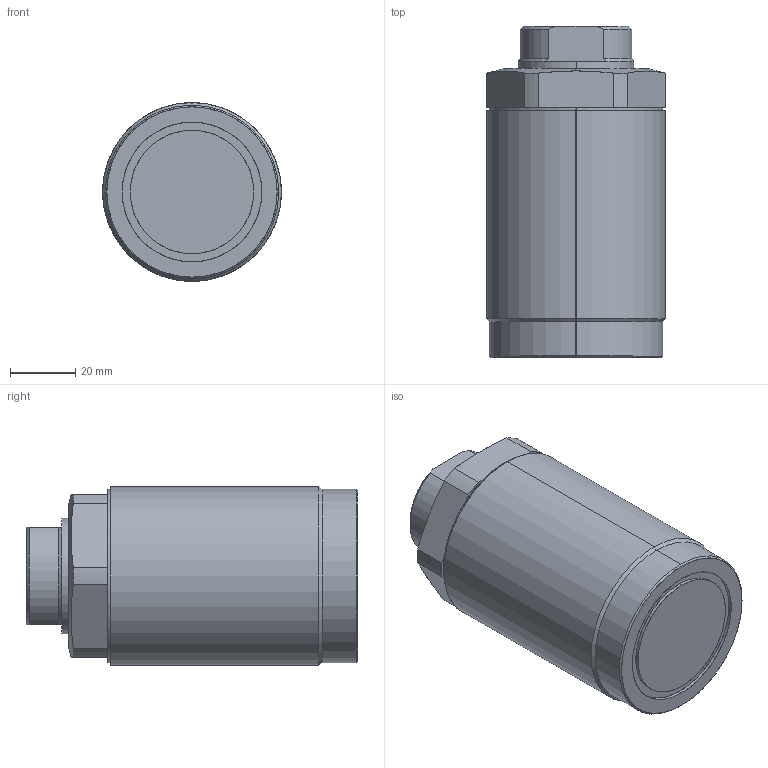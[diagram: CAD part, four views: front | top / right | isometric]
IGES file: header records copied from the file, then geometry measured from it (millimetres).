
Start section: SolidWorks IGES file using analytic representation for surfaces
Global section: file name: D:\karuppas\Clasp\3D model\Thread body cylinder\T03C-M556-L threaded pusher\T03C-M556-L threaded pusher.IGS; native system: SolidWorks 2017; preprocessor: SolidWorks 2017; author: pc; date: 220709.231510; units: millimetre
Bounding box: 55 x 102 x 55 mm (x, y, z)
Surface area: 29087.4 mm2 (no closed solid volume)
Topology: 0 solids, 0 shells, 254 faces, 3468 edges, 3466 vertices
Faces by surface type: bspline 218, revolution 36
